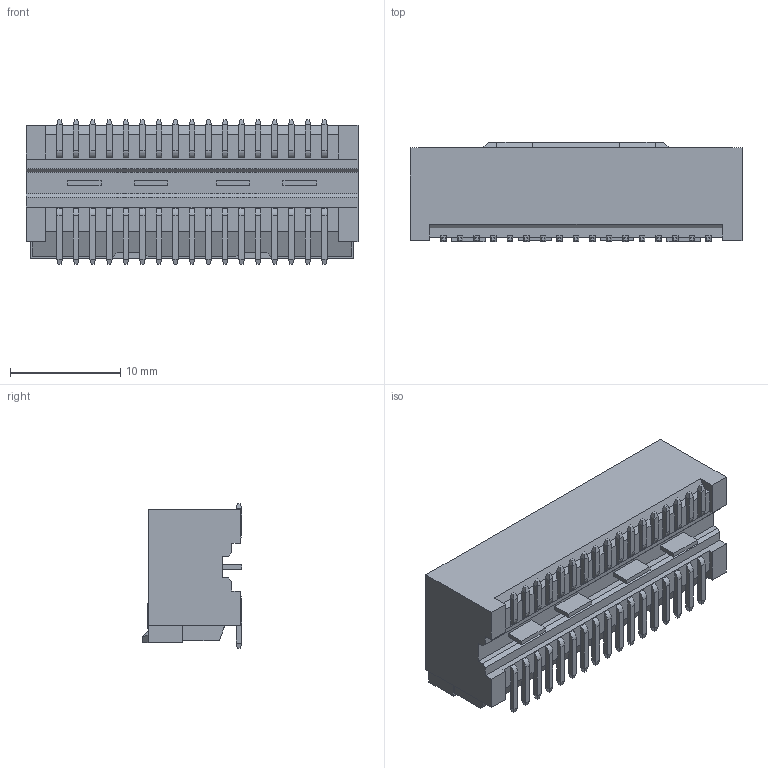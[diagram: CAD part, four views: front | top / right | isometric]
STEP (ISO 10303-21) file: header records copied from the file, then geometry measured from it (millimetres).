
FILE_DESCRIPTION((''),'2;1');
FILE_NAME('2016460341','2018-12-20T',('gga'),(''),'PRO/ENGINEER BY PARAMETRIC TECHNOLOGY CORPORATION, 2016010','PRO/ENGINEER BY PARAMETRIC TECHNOLOGY CORPORATION, 2016010','');
FILE_SCHEMA(('CONFIG_CONTROL_DESIGN'));
Length unit declared in the file: millimetre
Products named in the file (1): 2016460341
Bounding box: 30.1 x 9 x 13.1 mm (x, y, z)
Volume: 1427 mm3; surface area: 2819.2 mm2
Topology: 2 solids, 2 shells, 941 faces, 2568 edges, 1672 vertices
Faces by surface type: plane 907, cylinder 34
Entity records: 28645 total; most frequent: CARTESIAN_POINT 5030, ORIENTED_EDGE 4832, DIRECTION 4520, VECTOR 2500, LINE 2500, EDGE_CURVE 2416, VERTEX_POINT 1520, AXIS2_PLACEMENT_3D 1010
